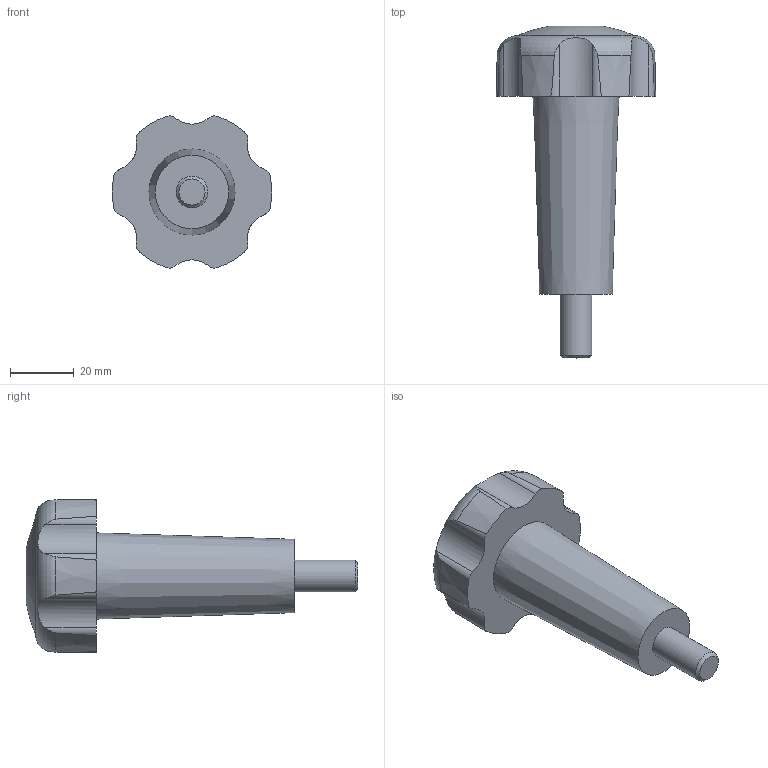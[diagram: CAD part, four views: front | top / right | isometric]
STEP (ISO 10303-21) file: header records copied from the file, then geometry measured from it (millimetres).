
FILE_DESCRIPTION( ( 'STEP AP203' ), '1' );
FILE_NAME( 'C:/Temp/Ganter_Step_05_03_2020/data/2_2/gn_5332/gn_5332_ms/Star knob with threaded bolt GN 5332-50-M10-20.stp', '2020-03-05T12:04:59', ( 'License CC BY-ND 4.0' ), ( 'CADENAS' ), ' ', 'PARTsolutions', ' ' );
FILE_SCHEMA( ( 'CONFIG_CONTROL_DESIGN' ) );
Length unit declared in the file: millimetre
Products named in the file (1): _Star knob with threaded bolt GN 5332-50-M10-20
Bounding box: 49.89 x 104 x 47.66 mm (x, y, z)
Volume: 66472.7 mm3; surface area: 11622.1 mm2
Topology: 1 solids, 1 shells, 34 faces, 86 edges, 57 vertices
Faces by surface type: cylinder 19, cone 8, plane 5, bspline 1, torus 1
Full cylindrical faces by diameter (mm): 10 x1
Entity records: 1519 total; most frequent: CARTESIAN_POINT 704, ORIENTED_EDGE 160, DIRECTION 156, EDGE_CURVE 80, AXIS2_PLACEMENT_3D 72, VERTEX_POINT 56, EDGE_LOOP 42, CIRCLE 38
